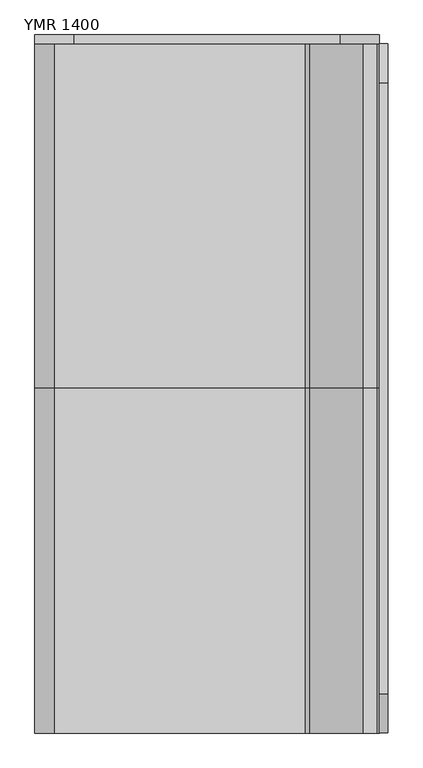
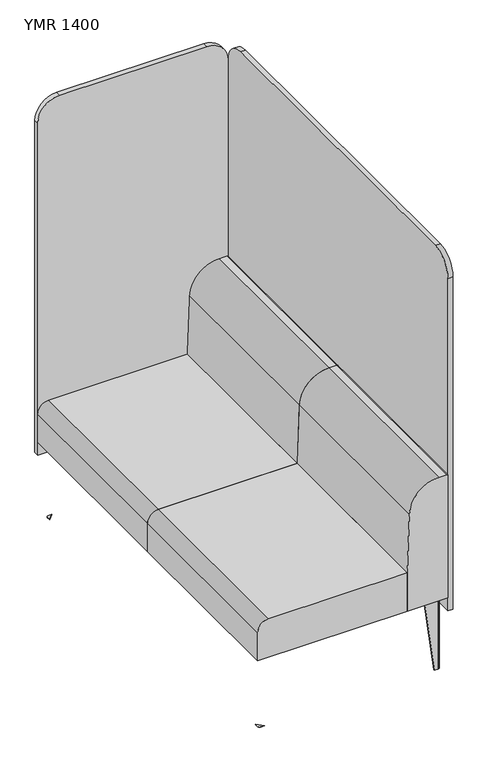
"""IFC4 building model written with IfcOpenShell, lengths in millimetres: furniture geometry, Mobiliário_Mobiliário de Escritório_LinhaYoung_Multimídia Enclosure - YMR_Marelli : YMR 1400."""

from ifc_helpers import new_model, si_unit, point, frame, frame_2d, origin, origin_with_axes, place, context, project, spatial, polyline, circle_curve, trimmed, segment, composite_curve, outline, extrude, source, transform, mapped, element, save
from ifc_brep_helpers import plane_surface, cylinder_surface, revolved_surface, advanced_brep


def ymr_1400_8e240abd(model_context):
    return source(origin(), model_context, "Body", "SolidModel", [
        advanced_brep(
        [(1425.0, -1434.0, 280.0), (1475.0, -1434.0, 280.0), (1485.0, -1424.0, 280.0), (1485.0, -1374.0, 280.0), (1482.0, -1374.0, 280.0), (1482.0, -1424.0, 280.0), (1475.0, -1431.0, 280.0), (1425.0, -1431.0, 280.0), (1461.0, -1434.0, 0.0), (1461.0, -1431.0, 0.0), (1475.0, -1431.0, 0.0), (1482.0, -1424.0, 0.0), (1482.0, -1410.0, 0.0), (1485.0, -1410.0, 0.0), (1485.0, -1424.0, 0.0), (1475.0, -1434.0, 0.0)],
        [
            (0, 1),
            (1, 2, circle_curve(frame((1475.0, -1424.0, 280.0), z_axis=(0.0, 0.0, 1.0), x_axis=(1.0, 0.0, 0.0)), 10.0)),
            (2, 3),
            (3, 4),
            (4, 5),
            (5, 6, circle_curve(frame((1475.0, -1424.0, 280.0), z_axis=(0.0, 0.0, -1.0), x_axis=(0.0, -1.0, 0.0)), 7.0)),
            (6, 7),
            (7, 0),
            (8, 9),
            (9, 10),
            (10, 11, circle_curve(frame((1475.0, -1424.0, 0.0), z_axis=(0.0, 0.0, 1.0), x_axis=(0.0, -1.0, 0.0)), 7.0)),
            (11, 12),
            (12, 13),
            (13, 14),
            (14, 15, circle_curve(frame((1475.0, -1424.0, 0.0), z_axis=(0.0, 0.0, -1.0), x_axis=(1.0, 0.0, 0.0)), 10.0)),
            (15, 8),
            (15, 1),
            (0, 8),
            (14, 2),
            (13, 3),
            (12, 4),
            (11, 5),
            (10, 6),
            (9, 7),
        ],
        [
            plane_surface(frame((1466.75, -1415.75, 280.0), z_axis=(0.0, 0.0, 1.0), x_axis=(1.0, 0.0, 0.0))),
            plane_surface(frame((1475.75, -1424.75, 0.0), z_axis=(0.0, 0.0, -1.0), x_axis=(1.0, 0.0, 0.0))),
            plane_surface(frame((1468.0, -1434.0, 0.0), z_axis=(0.0, -1.0, 0.0), x_axis=(1.0, 0.0, 0.0))),
            cylinder_surface(frame((1475.0, -1424.0, 0.0), z_axis=(0.0, 0.0, 1.0), x_axis=(1.0, 0.0, 0.0)), 10.0),
            plane_surface(frame((1485.0, -1417.0, 0.0), z_axis=(1.0, 0.0, 0.0), x_axis=(0.0, 1.0, 0.0))),
            plane_surface(frame((1483.5, -1410.0, 0.0), z_axis=(0.0, 0.9918357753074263, -0.1275217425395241), x_axis=(-1.0, 0.0, 0.0))),
            plane_surface(frame((1482.0, -1417.0, 0.0), z_axis=(-1.0, 0.0, 0.0), x_axis=(0.0, -1.0, 0.0))),
            revolved_surface(polyline([(1475.0, -1431.0, 280.0), (1475.0, -1431.0, 0.0)]), (1475.0, -1424.0, 0.0), (0.0, 0.0, 1.0)),
            plane_surface(frame((1468.0, -1431.0, 0.0), z_axis=(0.0, 1.0, 0.0), x_axis=(-1.0, 0.0, 0.0))),
            plane_surface(frame((1461.0, -1432.5, 0.0), z_axis=(-0.9918357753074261, 0.0, -0.127521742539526), x_axis=(0.0, -1.0, 0.0))),
        ],
        [
            (0, [[1, 2, 3, 4, 5, 6, 7, 8]]),
            (1, [[9, 10, 11, 12, 13, 14, 15, 16]]),
            (2, [[-16, 17, -1, 18]]),
            (3, [[-15, 19, -2, -17]]),
            (4, [[-14, 20, -3, -19]]),
            (5, [[-13, 21, -4, -20]]),
            (6, [[-12, 22, -5, -21]]),
            (7, [[-11, 23, -6, -22]]),
            (8, [[-10, 24, -7, -23]]),
            (9, [[-9, -18, -8, -24]]),
        ],
    ),
        advanced_brep(
        [(1425.0, -74.0, 280.0), (1425.0, -77.0, 280.0), (1475.0, -77.0, 280.0), (1482.0, -84.0, 280.0), (1482.0, -134.0, 280.0), (1485.0, -134.0, 280.0), (1485.0, -84.0, 280.0), (1475.0, -74.0, 280.0), (1461.0, -74.0, 0.0), (1475.0, -74.0, 0.0), (1485.0, -84.0, 0.0), (1485.0, -98.0, 0.0), (1482.0, -98.0, 0.0), (1482.0, -84.0, 0.0), (1475.0, -77.0, 0.0), (1461.0, -77.0, 0.0)],
        [
            (0, 1),
            (1, 2),
            (2, 3, circle_curve(frame((1475.0, -84.0, 280.0), z_axis=(0.0, 0.0, -1.0), x_axis=(1.0, 0.0, 0.0)), 7.0)),
            (3, 4),
            (4, 5),
            (5, 6),
            (6, 7, circle_curve(frame((1475.0, -84.0, 280.0), z_axis=(0.0, 0.0, 1.0), x_axis=(0.0, 1.0, 0.0)), 10.0)),
            (7, 0),
            (8, 9),
            (9, 10, circle_curve(frame((1475.0, -84.0, 0.0), z_axis=(0.0, 0.0, -1.0), x_axis=(0.0, 1.0, 0.0)), 10.0)),
            (10, 11),
            (11, 12),
            (12, 13),
            (13, 14, circle_curve(frame((1475.0, -84.0, 0.0), z_axis=(0.0, 0.0, 1.0), x_axis=(1.0, 0.0, 0.0)), 7.0)),
            (14, 15),
            (15, 8),
            (8, 0),
            (7, 9),
            (6, 10),
            (5, 11),
            (4, 12),
            (3, 13),
            (2, 14),
            (1, 15),
        ],
        [
            plane_surface(frame((1466.75, -92.25, 280.0), z_axis=(0.0, 0.0, 1.0), x_axis=(0.0, -1.0, 0.0))),
            plane_surface(frame((1475.75, -83.25, 0.0), z_axis=(0.0, 0.0, -1.0), x_axis=(0.0, -1.0, 0.0))),
            plane_surface(frame((1468.0, -74.0, 0.0), z_axis=(0.0, 1.0, 0.0), x_axis=(-1.0, 0.0, 0.0))),
            cylinder_surface(frame((1475.0, -84.0, 0.0), z_axis=(0.0, 0.0, 1.0), x_axis=(0.0, 1.0, 0.0)), 10.0),
            plane_surface(frame((1485.0, -91.0, 0.0), z_axis=(1.0, 0.0, 0.0), x_axis=(0.0, 1.0, 0.0))),
            plane_surface(frame((1483.5, -98.0, 0.0), z_axis=(0.0, -0.9918357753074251, -0.12752174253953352), x_axis=(1.0, 0.0, 0.0))),
            plane_surface(frame((1482.0, -91.0, 0.0), z_axis=(-1.0, 0.0, 0.0), x_axis=(0.0, -1.0, 0.0))),
            revolved_surface(polyline([(1482.0, -84.0, 280.0), (1482.0, -84.0, 0.0)]), (1475.0, -84.0, 0.0), (0.0, 0.0, 1.0)),
            plane_surface(frame((1468.0, -77.0, 0.0), z_axis=(0.0, -1.0, 0.0), x_axis=(1.0, 0.0, 0.0))),
            plane_surface(frame((1461.0, -75.5, 0.0), z_axis=(-0.9918357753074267, 0.0, -0.1275217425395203), x_axis=(0.0, -1.0, 0.0))),
        ],
        [
            (0, [[1, 2, 3, 4, 5, 6, 7, 8]]),
            (1, [[9, 10, 11, 12, 13, 14, 15, 16]]),
            (2, [[-9, 17, -8, 18]]),
            (3, [[-10, -18, -7, 19]]),
            (4, [[-11, -19, -6, 20]]),
            (5, [[-12, -20, -5, 21]]),
            (6, [[-13, -21, -4, 22]]),
            (7, [[-14, -22, -3, 23]]),
            (8, [[-15, -23, -2, 24]]),
            (9, [[-16, -24, -1, -17]]),
        ],
    ),
        extrude(outline(composite_curve([segment(polyline([(839.0, -1431.0), (825.0, -1431.0)]), True, "CONTINUOUS"), segment(trimmed(circle_curve(frame_2d((825.0, -1424.0)), 7.0), [point((825.0, -1431.0))], [point((818.0, -1424.0))], False, "CARTESIAN"), True, "CONTINUOUS"), segment(polyline([(818.0, -1424.0), (818.0, -1410.0), (839.0, -1431.0)]), True, "CONTINUOUS")], self_intersect=False)), origin_with_axes(), (0.0, 0.0, 1.0), 1.0),
        extrude(outline(composite_curve([segment(polyline([(1461.0, -1431.0), (1482.0, -1410.0), (1482.0, -1424.0)]), True, "CONTINUOUS"), segment(trimmed(circle_curve(frame_2d((1475.0, -1424.0)), 7.0), [point((1482.0, -1424.0))], [point((1475.0, -1431.0))], False, "CARTESIAN"), True, "CONTINUOUS"), segment(polyline([(1475.0, -1431.0), (1461.0, -1431.0)]), True, "CONTINUOUS")], self_intersect=False)), origin_with_axes(), (0.0, 0.0, 1.0), 1.0),
        extrude(outline(composite_curve([segment(polyline([(839.0, -77.0), (818.0, -98.0), (818.0, -84.0)]), True, "CONTINUOUS"), segment(trimmed(circle_curve(frame_2d((825.0, -84.0)), 7.0), [point((818.0, -84.0))], [point((825.0, -77.0))], False, "CARTESIAN"), True, "CONTINUOUS"), segment(polyline([(825.0, -77.0), (839.0, -77.0)]), True, "CONTINUOUS")], self_intersect=False)), origin_with_axes(), (0.0, 0.0, 1.0), 1.0),
        extrude(outline(composite_curve([segment(polyline([(1461.0, -77.0), (1475.0, -77.0)]), True, "CONTINUOUS"), segment(trimmed(circle_curve(frame_2d((1475.0, -84.0)), 7.0), [point((1475.0, -77.0))], [point((1482.0, -84.0))], False, "CARTESIAN"), True, "CONTINUOUS"), segment(polyline([(1482.0, -84.0), (1482.0, -98.0), (1461.0, -77.0)]), True, "CONTINUOUS")], self_intersect=False)), origin_with_axes(), (0.0, 0.0, 1.0), 1.0),
        extrude(outline(composite_curve([segment(polyline([(818.0, -1424.0), (818.0, -1356.0)]), True, "CONTINUOUS"), segment(trimmed(circle_curve(frame_2d((823.0, -1356.0)), 5.0), [point((818.0, -1356.0))], [point((823.0, -1351.0))], False, "CARTESIAN"), True, "CONTINUOUS"), segment(polyline([(823.0, -1351.0), (846.9545624, -1351.0)]), True, "CONTINUOUS"), segment(trimmed(circle_curve(frame_2d((847.6241051, -1359.068245)), 8.0959783), [point((846.9545624, -1351.0))], [point((853.520382, -1353.520382))], False, "CARTESIAN"), True, "CONTINUOUS"), segment(polyline([(853.520382, -1353.520382), (895.479618, -1395.479618)]), True, "CONTINUOUS"), segment(trimmed(circle_curve(frame_2d((889.931755, -1401.3758949)), 8.0959783), [point((895.479618, -1395.479618))], [point((898.0, -1402.0454376))], False, "CARTESIAN"), True, "CONTINUOUS"), segment(polyline([(898.0, -1402.0454376), (898.0, -1426.0)]), True, "CONTINUOUS"), segment(trimmed(circle_curve(frame_2d((893.0, -1426.0)), 5.0), [point((898.0, -1426.0))], [point((893.0, -1431.0))], False, "CARTESIAN"), True, "CONTINUOUS"), segment(polyline([(893.0, -1431.0), (825.0, -1431.0)]), True, "CONTINUOUS"), segment(trimmed(circle_curve(frame_2d((825.0, -1424.0)), 7.0), [point((825.0, -1431.0))], [point((818.0, -1424.0))], False, "CARTESIAN"), True, "CONTINUOUS")], self_intersect=False)), frame((0.0, 0.0, 279.0), z_axis=(0.0, 0.0, 1.0), x_axis=(1.0, 0.0, 0.0)), (0.0, 0.0, 1.0), 1.0),
        extrude(outline(composite_curve([segment(trimmed(circle_curve(frame_2d((1475.0, -1424.0)), 7.0), [point((1482.0, -1424.0))], [point((1475.0, -1431.0))], False, "CARTESIAN"), True, "CONTINUOUS"), segment(polyline([(1475.0, -1431.0), (1407.0, -1431.0)]), True, "CONTINUOUS"), segment(trimmed(circle_curve(frame_2d((1407.0, -1426.0)), 5.0), [point((1407.0, -1431.0))], [point((1402.0, -1426.0))], False, "CARTESIAN"), True, "CONTINUOUS"), segment(polyline([(1402.0, -1426.0), (1402.0, -1402.0454376)]), True, "CONTINUOUS"), segment(trimmed(circle_curve(frame_2d((1410.068245, -1401.3758949)), 8.0959783), [point((1402.0, -1402.0454376))], [point((1404.520382, -1395.479618))], False, "CARTESIAN"), True, "CONTINUOUS"), segment(polyline([(1404.520382, -1395.479618), (1446.479618, -1353.520382)]), True, "CONTINUOUS"), segment(trimmed(circle_curve(frame_2d((1452.3758949, -1359.068245)), 8.0959783), [point((1446.479618, -1353.520382))], [point((1453.0454376, -1351.0))], False, "CARTESIAN"), True, "CONTINUOUS"), segment(polyline([(1453.0454376, -1351.0), (1477.0, -1351.0)]), True, "CONTINUOUS"), segment(trimmed(circle_curve(frame_2d((1477.0, -1356.0)), 5.0), [point((1477.0, -1351.0))], [point((1482.0, -1356.0))], False, "CARTESIAN"), True, "CONTINUOUS"), segment(polyline([(1482.0, -1356.0), (1482.0, -1424.0)]), True, "CONTINUOUS")], self_intersect=False)), frame((0.0, 0.0, 279.0), z_axis=(0.0, 0.0, 1.0), x_axis=(1.0, 0.0, 0.0)), (0.0, 0.0, 1.0), 1.0),
        extrude(outline(composite_curve([segment(trimmed(circle_curve(frame_2d((825.0, -84.0)), 7.0), [point((818.0, -84.0))], [point((825.0, -77.0))], False, "CARTESIAN"), True, "CONTINUOUS"), segment(polyline([(825.0, -77.0), (893.0, -77.0)]), True, "CONTINUOUS"), segment(trimmed(circle_curve(frame_2d((893.0, -82.0)), 5.0), [point((893.0, -77.0))], [point((898.0, -82.0))], False, "CARTESIAN"), True, "CONTINUOUS"), segment(polyline([(898.0, -82.0), (898.0, -105.9545624)]), True, "CONTINUOUS"), segment(trimmed(circle_curve(frame_2d((889.931755, -106.6241051)), 8.0959783), [point((898.0, -105.9545624))], [point((895.479618, -112.520382))], False, "CARTESIAN"), True, "CONTINUOUS"), segment(polyline([(895.479618, -112.520382), (853.520382, -154.479618)]), True, "CONTINUOUS"), segment(trimmed(circle_curve(frame_2d((847.6241051, -148.931755)), 8.0959783), [point((853.520382, -154.479618))], [point((846.9545624, -157.0))], False, "CARTESIAN"), True, "CONTINUOUS"), segment(polyline([(846.9545624, -157.0), (823.0, -157.0)]), True, "CONTINUOUS"), segment(trimmed(circle_curve(frame_2d((823.0, -152.0)), 5.0), [point((823.0, -157.0))], [point((818.0, -152.0))], False, "CARTESIAN"), True, "CONTINUOUS"), segment(polyline([(818.0, -152.0), (818.0, -84.0)]), True, "CONTINUOUS")], self_intersect=False)), frame((0.0, 0.0, 279.0), z_axis=(0.0, 0.0, 1.0), x_axis=(1.0, 0.0, 0.0)), (0.0, 0.0, 1.0), 1.0),
        extrude(outline(composite_curve([segment(polyline([(1482.0, -84.0), (1482.0, -152.0)]), True, "CONTINUOUS"), segment(trimmed(circle_curve(frame_2d((1477.0, -152.0)), 5.0), [point((1482.0, -152.0))], [point((1477.0, -157.0))], False, "CARTESIAN"), True, "CONTINUOUS"), segment(polyline([(1477.0, -157.0), (1453.0454376, -157.0)]), True, "CONTINUOUS"), segment(trimmed(circle_curve(frame_2d((1452.3758949, -148.931755)), 8.0959783), [point((1453.0454376, -157.0))], [point((1446.479618, -154.479618))], False, "CARTESIAN"), True, "CONTINUOUS"), segment(polyline([(1446.479618, -154.479618), (1404.520382, -112.520382)]), True, "CONTINUOUS"), segment(trimmed(circle_curve(frame_2d((1410.068245, -106.6241051)), 8.0959783), [point((1404.520382, -112.520382))], [point((1402.0, -105.9545624))], False, "CARTESIAN"), True, "CONTINUOUS"), segment(polyline([(1402.0, -105.9545624), (1402.0, -82.0)]), True, "CONTINUOUS"), segment(trimmed(circle_curve(frame_2d((1407.0, -82.0)), 5.0), [point((1402.0, -82.0))], [point((1407.0, -77.0))], False, "CARTESIAN"), True, "CONTINUOUS"), segment(polyline([(1407.0, -77.0), (1475.0, -77.0)]), True, "CONTINUOUS"), segment(trimmed(circle_curve(frame_2d((1475.0, -84.0)), 7.0), [point((1475.0, -77.0))], [point((1482.0, -84.0))], False, "CARTESIAN"), True, "CONTINUOUS")], self_intersect=False)), frame((0.0, 0.0, 279.0), z_axis=(0.0, 0.0, 1.0), x_axis=(1.0, 0.0, 0.0)), (0.0, 0.0, 1.0), 1.0),
        extrude(outline(composite_curve([segment(polyline([(430.0, 1350.0), (430.0, 840.0)]), True, "CONTINUOUS"), segment(trimmed(circle_curve(frame_2d((390.0, 840.0)), 40.0), [point((430.0, 840.0))], [point((390.0, 800.0))], False, "CARTESIAN"), True, "CONTINUOUS"), segment(polyline([(390.0, 800.0), (280.0, 800.0), (280.0, 1350.0), (430.0, 1350.0)]), True, "CONTINUOUS")], self_intersect=False)), frame((0.0, -1454.0, 0.0), z_axis=(0.0, 1.0, 0.0), x_axis=(0.0, 0.0, 1.0)), (0.0, 0.0, 1.0), 700.0),
        extrude(outline(composite_curve([segment(polyline([(430.0, 1350.0), (430.0, 840.0)]), True, "CONTINUOUS"), segment(trimmed(circle_curve(frame_2d((390.0, 840.0)), 40.0), [point((430.0, 840.0))], [point((390.0, 800.0))], False, "CARTESIAN"), True, "CONTINUOUS"), segment(polyline([(390.0, 800.0), (280.0, 800.0), (280.0, 1350.0), (430.0, 1350.0)]), True, "CONTINUOUS")], self_intersect=False)), frame((0.0, -754.0, 0.0), z_axis=(0.0, 1.0, 0.0), x_axis=(0.0, 0.0, 1.0)), (0.0, 0.0, 1.0), 700.0),
        extrude(outline(composite_curve([segment(trimmed(circle_curve(frame_2d((756.802426, 1496.802426)), 3.197574), [point((756.802426, 1500.0))], [point((760.0, 1496.802426))], False, "CARTESIAN"), True, "CONTINUOUS"), segment(polyline([(760.0, 1496.802426), (760.0, 1468.0)]), True, "CONTINUOUS"), segment(trimmed(circle_curve(frame_2d((650.1824561, 1468.0)), 109.8175439), [point((760.0, 1468.0))], [point((654.223651, 1358.2568376))], False, "CARTESIAN"), True, "CONTINUOUS"), segment(polyline([(654.223651, 1358.2568376), (430.0, 1350.0), (280.0, 1350.0), (280.0, 1500.0), (756.802426, 1500.0)]), True, "CONTINUOUS")], self_intersect=False)), frame((0.0, -1454.0, 0.0), z_axis=(0.0, 1.0, 0.0), x_axis=(0.0, 0.0, 1.0)), (0.0, 0.0, 1.0), 700.0),
        extrude(outline(composite_curve([segment(trimmed(circle_curve(frame_2d((756.802426, 1496.802426)), 3.197574), [point((756.802426, 1500.0))], [point((760.0, 1496.802426))], False, "CARTESIAN"), True, "CONTINUOUS"), segment(polyline([(760.0, 1496.802426), (760.0, 1468.0)]), True, "CONTINUOUS"), segment(trimmed(circle_curve(frame_2d((650.1824561, 1468.0)), 109.8175439), [point((760.0, 1468.0))], [point((654.223651, 1358.2568376))], False, "CARTESIAN"), True, "CONTINUOUS"), segment(polyline([(654.223651, 1358.2568376), (430.0, 1350.0), (280.0, 1350.0), (280.0, 1500.0), (756.802426, 1500.0)]), True, "CONTINUOUS")], self_intersect=False)), frame((0.0, -754.0, 0.0), z_axis=(0.0, 1.0, 0.0), x_axis=(0.0, 0.0, 1.0)), (0.0, 0.0, 1.0), 700.0),
        extrude(outline(composite_curve([segment(polyline([(1600.0, 1420.0), (1600.0, 880.0)]), True, "CONTINUOUS"), segment(trimmed(circle_curve(frame_2d((1520.0, 880.0)), 80.0), [point((1600.0, 880.0))], [point((1520.0, 800.0))], False, "CARTESIAN"), True, "CONTINUOUS"), segment(polyline([(1520.0, 800.0), (230.0, 800.0), (230.0, 1500.0), (1520.0, 1500.0)]), True, "CONTINUOUS"), segment(trimmed(circle_curve(frame_2d((1520.0, 1420.0)), 80.0), [point((1520.0, 1500.0))], [point((1600.0, 1420.0))], False, "CARTESIAN"), True, "CONTINUOUS")], self_intersect=False)), frame((0.0, -54.0, 0.0), z_axis=(0.0, 1.0, 0.0), x_axis=(0.0, 0.0, 1.0)), (0.0, 0.0, 1.0), 18.0),
        extrude(outline(composite_curve([segment(trimmed(circle_curve(frame_2d((-134.0, 1520.0)), 80.0), [point((-134.0, 1600.0))], [point((-54.0, 1520.0))], False, "CARTESIAN"), True, "CONTINUOUS"), segment(polyline([(-54.0, 1520.0), (-54.0, 230.0), (-1454.0, 230.0), (-1454.0, 1520.0)]), True, "CONTINUOUS"), segment(trimmed(circle_curve(frame_2d((-1374.0, 1520.0)), 80.0), [point((-1454.0, 1520.0))], [point((-1374.0, 1600.0))], False, "CARTESIAN"), True, "CONTINUOUS"), segment(polyline([(-1374.0, 1600.0), (-134.0, 1600.0)]), True, "CONTINUOUS")], self_intersect=False)), frame((1500.0, 0.0, 0.0), z_axis=(1.0, 0.0, 0.0), x_axis=(0.0, 1.0, 0.0)), (0.0, 0.0, 1.0), 18.0),
    ])


if __name__ == "__main__":
    model = new_model("IFC4")
    model_context = context("Model", 3, world=origin())
    ifc_project = project(units=[si_unit("LENGTHUNIT", "METRE", prefix="MILLI")], contexts=[model_context])
    site = spatial("IfcSite", under=ifc_project)
    building = spatial("IfcBuilding", under=site)
    placement = place(None, origin())
    ymr_1400_shape = ymr_1400_8e240abd(model_context)
    element("IfcFurniture", 1, ObjectType="Mobiliário_Mobiliário de Escritório_LinhaYoung_Multimídia Enclosure - YMR_Marelli : YMR 1400", at=placement, inside=building, context=model_context, shape_type="MappedRepresentation", body=[
        mapped(ymr_1400_shape, transform((0.0, 0.0, 0.0), x_axis=(1.0, 0.0, 0.0), y_axis=(0.0, 1.0, 0.0), z_axis=(0.0, 0.0, 1.0))),
    ])
    save(model, "model.ifc")
